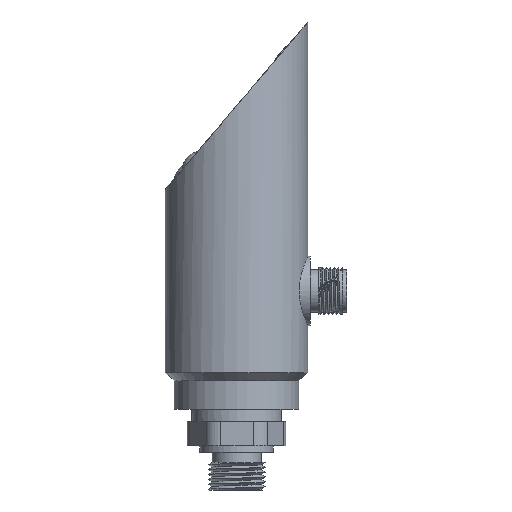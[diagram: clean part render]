
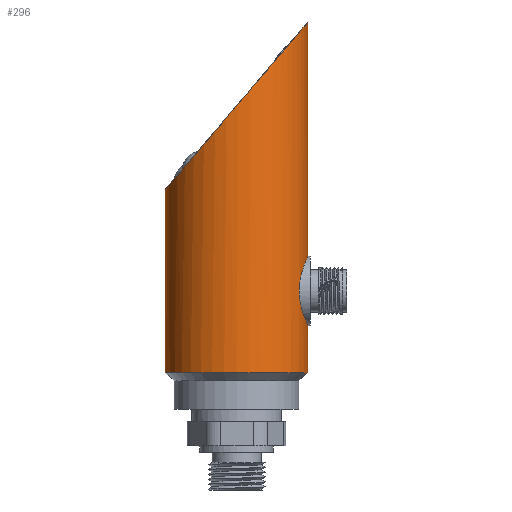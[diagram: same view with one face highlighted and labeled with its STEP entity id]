
A CAD part, front view. The second image highlights one B-rep face of the part: STEP entity #296.
In plain terms, the highlighted cylindrical face has radius 17.5 mm (diameter 35 mm), a full revolution.
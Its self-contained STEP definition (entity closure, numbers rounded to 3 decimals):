
#120=CYLINDRICAL_SURFACE('',#3028,17.5);
#296=ADVANCED_FACE('',(#1038,#1039,#1040),#120,.T.);
#597=ELLIPSE('',#3020,27.001,17.5);
#972=CIRCLE('',#3027,17.5);
#1038=FACE_BOUND('',#1111,.T.);
#1039=FACE_BOUND('',#1112,.T.);
#1040=FACE_BOUND('',#1113,.T.);
#1111=EDGE_LOOP('',(#1427));
#1112=EDGE_LOOP('',(#1428));
#1113=EDGE_LOOP('',(#1429));
#1427=ORIENTED_EDGE('',*,*,#2503,.T.);
#1428=ORIENTED_EDGE('',*,*,#2525,.F.);
#1429=ORIENTED_EDGE('',*,*,#2526,.T.);
#2222=VERTEX_POINT('',#4289);
#2243=VERTEX_POINT('',#4468);
#2244=VERTEX_POINT('',#4487);
#2503=EDGE_CURVE('',#2222,#2222,#597,.T.);
#2525=EDGE_CURVE('',#2243,#2243,#972,.T.);
#2526=EDGE_CURVE('',#2244,#2244,#2904,.T.);
#2904=B_SPLINE_CURVE_WITH_KNOTS('',3,(#4469,#4470,#4471,#4472,#4473,#4474,
#4475,#4476,#4477,#4478,#4479,#4480,#4481,#4482,#4483,#4484,#4485,#4486),
 .UNSPECIFIED.,.T.,.F.,(2,2,2,2,2,2,2,2,2,2,2),(-0.125,0.,0.125,0.25,0.375,
0.5,0.625,0.75,0.875,1.,1.125),.UNSPECIFIED.);
#3020=AXIS2_PLACEMENT_3D('',#4288,#3243,#3244);
#3027=AXIS2_PLACEMENT_3D('',#4467,#3272,#3273);
#3028=AXIS2_PLACEMENT_3D('',#4488,#3274,#3275);
#3243=DIRECTION('',(0.762,0.,-0.648));
#3244=DIRECTION('',(0.648,0.,0.762));
#3272=DIRECTION('',(0.,0.,-1.));
#3273=DIRECTION('',(-1.,0.,0.));
#3274=DIRECTION('',(0.,0.,1.));
#3275=DIRECTION('',(1.,0.,0.));
#4288=CARTESIAN_POINT('',(0.,0.,65.438));
#4289=CARTESIAN_POINT('',(17.5,0.,86.));
#4467=CARTESIAN_POINT('',(0.,0.,0.));
#4468=CARTESIAN_POINT('',(-17.5,0.,0.));
#4469=CARTESIAN_POINT('',(17.5,2.284,11.5));
#4470=CARTESIAN_POINT('',(17.5,-2.284,11.5));
#4471=CARTESIAN_POINT('',(16.998,-4.472,12.45));
#4472=CARTESIAN_POINT('',(15.871,-7.554,15.535));
#4473=CARTESIAN_POINT('',(15.3,-8.495,17.724));
#4474=CARTESIAN_POINT('',(15.294,-8.505,22.24));
#4475=CARTESIAN_POINT('',(15.867,-7.562,24.454));
#4476=CARTESIAN_POINT('',(16.996,-4.481,27.546));
#4477=CARTESIAN_POINT('',(17.497,-2.273,28.494));
#4478=CARTESIAN_POINT('',(17.503,2.231,28.506));
#4479=CARTESIAN_POINT('',(17.003,4.457,27.562));
#4480=CARTESIAN_POINT('',(15.87,7.558,24.465));
#4481=CARTESIAN_POINT('',(15.3,8.495,22.267));
#4482=CARTESIAN_POINT('',(15.294,8.505,17.77));
#4483=CARTESIAN_POINT('',(15.863,7.574,15.558));
#4484=CARTESIAN_POINT('',(17.002,4.464,12.439));
#4485=CARTESIAN_POINT('',(17.5,2.284,11.5));
#4486=CARTESIAN_POINT('',(17.5,-2.284,11.5));
#4487=CARTESIAN_POINT('',(17.5,0.,11.5));
#4488=CARTESIAN_POINT('',(0.,0.,0.));
